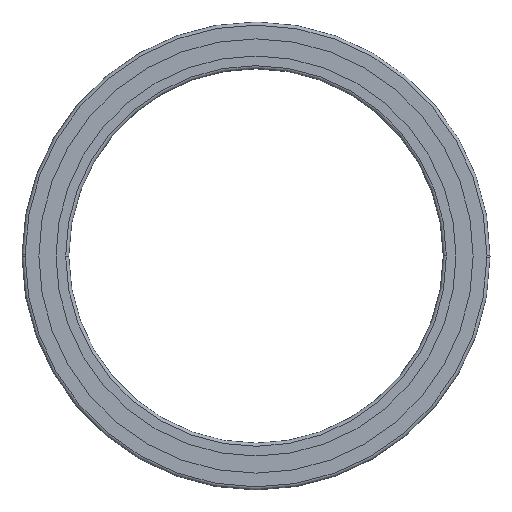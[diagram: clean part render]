
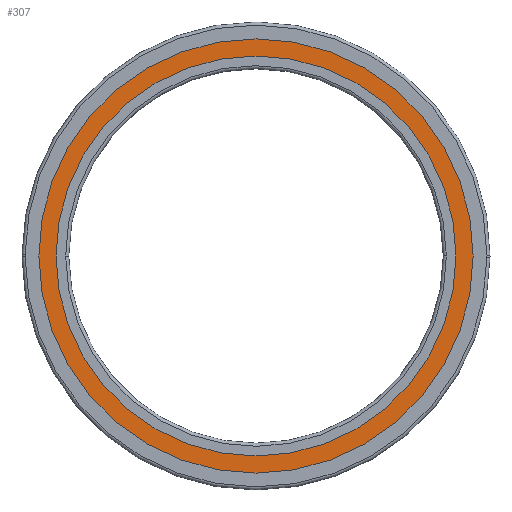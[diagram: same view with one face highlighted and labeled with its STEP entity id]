
A CAD part, front view. The second image highlights one B-rep face of the part: STEP entity #307.
In plain terms, the highlighted planar face has unit normal (0, -1, 0).
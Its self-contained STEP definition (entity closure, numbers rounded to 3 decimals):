
#239=EDGE_CURVE('',#449,#593,#640,.T.);
#253=EDGE_CURVE('',#593,#449,#656,.T.);
#285=EDGE_CURVE('',#297,#471,#693,.T.);
#287=EDGE_CURVE('',#471,#297,#695,.T.);
#297=VERTEX_POINT('',#707);
#307=ADVANCED_FACE('',(#722,#723),#724,.F.);
#449=VERTEX_POINT('',#875);
#471=VERTEX_POINT('',#902);
#593=VERTEX_POINT('',#1037);
#640=CIRCLE('',#1086,64.1);
#656=CIRCLE('',#1105,64.1);
#693=CIRCLE('',#1148,69.6);
#695=CIRCLE('',#1151,69.6);
#707=CARTESIAN_POINT('',(-69.6,0.0,0.));
#722=FACE_OUTER_BOUND('',#1178,.T.);
#723=FACE_BOUND('',#1179,.T.);
#724=PLANE('',#1180);
#875=CARTESIAN_POINT('',(64.1,0.0,0.0));
#902=CARTESIAN_POINT('',(69.6,0.0,0.0));
#1037=CARTESIAN_POINT('',(-64.1,0.0,0.0));
#1086=AXIS2_PLACEMENT_3D('',#1609,#1610,#1611);
#1105=AXIS2_PLACEMENT_3D('',#1626,#1627,#1628);
#1148=AXIS2_PLACEMENT_3D('',#1684,#1685,#1686);
#1151=AXIS2_PLACEMENT_3D('',#1687,#1688,#1689);
#1178=EDGE_LOOP('',(#1741,#1742));
#1179=EDGE_LOOP('',(#1743,#1744));
#1180=AXIS2_PLACEMENT_3D('',#1745,#1746,#1747);
#1609=CARTESIAN_POINT('',(0.0,0.0,0.0));
#1610=DIRECTION('',(0.0,-1.0,0.0));
#1611=DIRECTION('',(1.0,0.0,0.0));
#1626=CARTESIAN_POINT('',(0.0,0.0,0.0));
#1627=DIRECTION('',(0.0,-1.0,0.0));
#1628=DIRECTION('',(-1.0,0.0,0.0));
#1684=CARTESIAN_POINT('',(0.0,0.0,0.0));
#1685=DIRECTION('',(0.0,1.0,0.0));
#1686=DIRECTION('',(-1.0,0.0,0.0));
#1687=CARTESIAN_POINT('',(0.0,0.0,0.0));
#1688=DIRECTION('',(-0.0,1.0,0.0));
#1689=DIRECTION('',(1.0,0.0,0.0));
#1741=ORIENTED_EDGE('',*,*,#285,.F.);
#1742=ORIENTED_EDGE('',*,*,#287,.F.);
#1743=ORIENTED_EDGE('',*,*,#253,.F.);
#1744=ORIENTED_EDGE('',*,*,#239,.F.);
#1745=CARTESIAN_POINT('',(0.0,0.0,0.0));
#1746=DIRECTION('',(0.0,1.0,0.0));
#1747=DIRECTION('',(1.0,0.0,-0.0));
